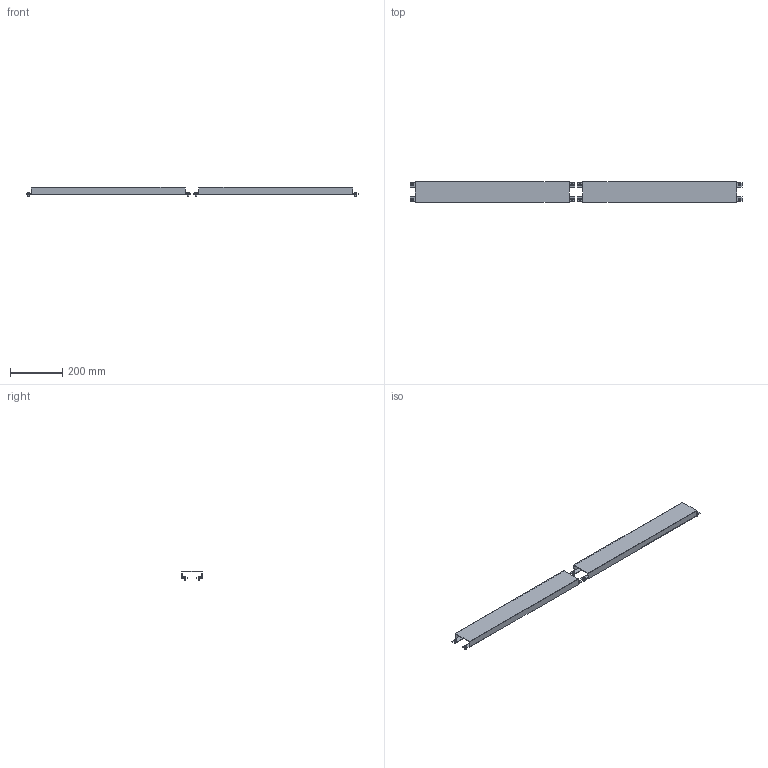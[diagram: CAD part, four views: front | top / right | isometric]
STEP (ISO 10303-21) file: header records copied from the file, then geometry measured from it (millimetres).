
FILE_DESCRIPTION(('Open CASCADE Model'),'2;1');
FILE_NAME('Open CASCADE Shape Model','2025-02-27T09:51:08',('Author'),( 'Open CASCADE'),'Open CASCADE STEP processor 7.8','Open CASCADE 7.8' ,'Unknown');
FILE_SCHEMA(('AUTOMOTIVE_DESIGN { 1 0 10303 214 1 1 1 1 }'));
Length unit declared in the file: millimetre
Products named in the file (3): Compound1; Solid1; Solid2
Assembly tree (10 placements, depth 2):
  Compound1
    Solid1  x2
    Solid2  x8
Bounding box: 1275 x 78 x 36 mm (x, y, z)
Volume: 391070.3 mm3; surface area: 398104.3 mm2
Topology: 10 solids, 10 shells, 276 faces, 640 edges, 376 vertices
Faces by surface type: plane 132, cylinder 48, cone 32, torus 32, bspline 16, sphere 16
Entity records: 2286 total; most frequent: CARTESIAN_POINT 564, DIRECTION 352, ORIENTED_EDGE 336, EDGE_CURVE 168, AXIS2_PLACEMENT_3D 119, LINE 114, VECTOR 114, VERTEX_POINT 107
